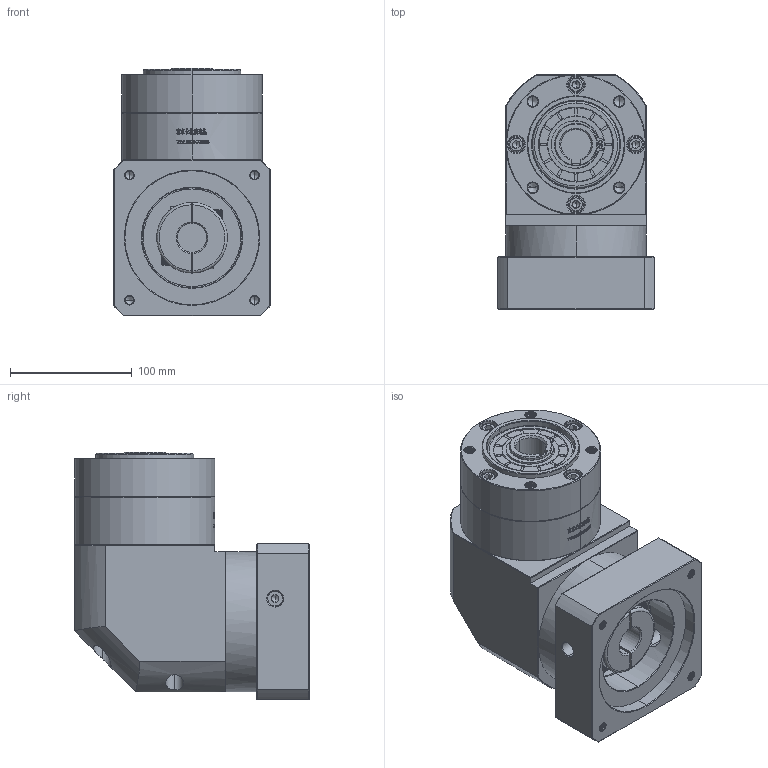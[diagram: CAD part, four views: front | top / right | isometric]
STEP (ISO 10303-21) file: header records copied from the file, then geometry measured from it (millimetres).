
FILE_DESCRIPTION (( 'STEP AP214' ), '1' );
FILE_NAME ('ZER120A-K25-L1-24-110-145-M8.step', '2023-03-14T08:26:55', ( '' ), ( '' ), 'SwSTEP 2.0', 'SolidWorks 2016', '' );
FILE_SCHEMA (( 'AUTOMOTIVE_DESIGN' ));
Length unit declared in the file: millimetre
Products named in the file (1): ZER120A-K25-L1-24-110-145-M8
Bounding box: 128 x 192.4 x 203 mm (x, y, z)
Volume: 2871990.6 mm3; surface area: 244275.2 mm2
Topology: 6 solids, 6 shells, 2898 faces, 7787 edges, 5033 vertices
Faces by surface type: plane 1456, bspline 609, cylinder 499, cone 326, torus 8
Entity records: 163903 total; most frequent: CARTESIAN_POINT 65860, ORIENTED_EDGE 15502, DIRECTION 11076, EDGE_CURVE 7751, VERTEX_POINT 5033, LINE 4750, VECTOR 4750, AXIS2_PLACEMENT_3D 3163
